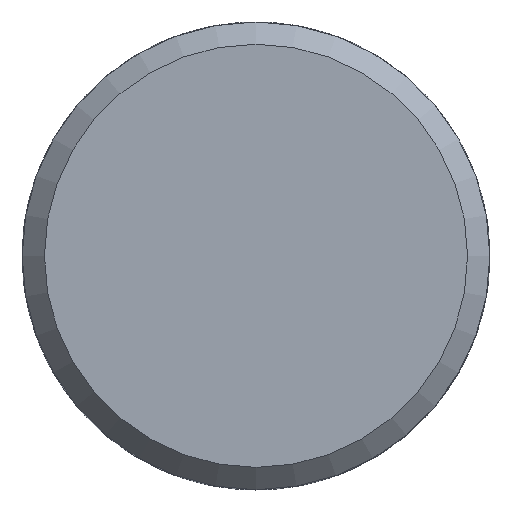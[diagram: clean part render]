
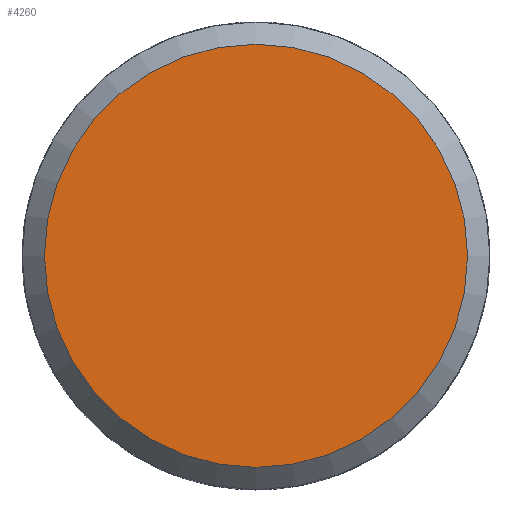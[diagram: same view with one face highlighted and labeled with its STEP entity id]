
A CAD part, top view. The second image highlights one B-rep face of the part: STEP entity #4260.
In plain terms, the highlighted planar face has unit normal (0, 0, 1).
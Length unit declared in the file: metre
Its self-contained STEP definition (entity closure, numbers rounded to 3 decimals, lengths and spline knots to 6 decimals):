
#173=CIRCLE('',#4645,0.01425);
#497=ORIENTED_EDGE('',*,*,#1742,.T.);
#1742=EDGE_CURVE('',#2364,#2364,#173,.T.);
#2364=VERTEX_POINT('',#6810);
#3460=EDGE_LOOP('',(#497));
#3781=FACE_BOUND('',#3460,.T.);
#4048=PLANE('',#4644);
#4260=ADVANCED_FACE('',(#3781),#4048,.T.);
#4644=AXIS2_PLACEMENT_3D('',#6808,#5342,#5343);
#4645=AXIS2_PLACEMENT_3D('',#6809,#5344,#5345);
#5342=DIRECTION('',(0.,0.,1.));
#5343=DIRECTION('',(1.,0.,0.));
#5344=DIRECTION('',(0.,0.,1.));
#5345=DIRECTION('',(1.,0.,0.));
#6808=CARTESIAN_POINT('',(-0.00265,0.00125,0.02915));
#6809=CARTESIAN_POINT('',(-0.00265,0.00125,0.02915));
#6810=CARTESIAN_POINT('',(0.0116,0.00125,0.02915));
